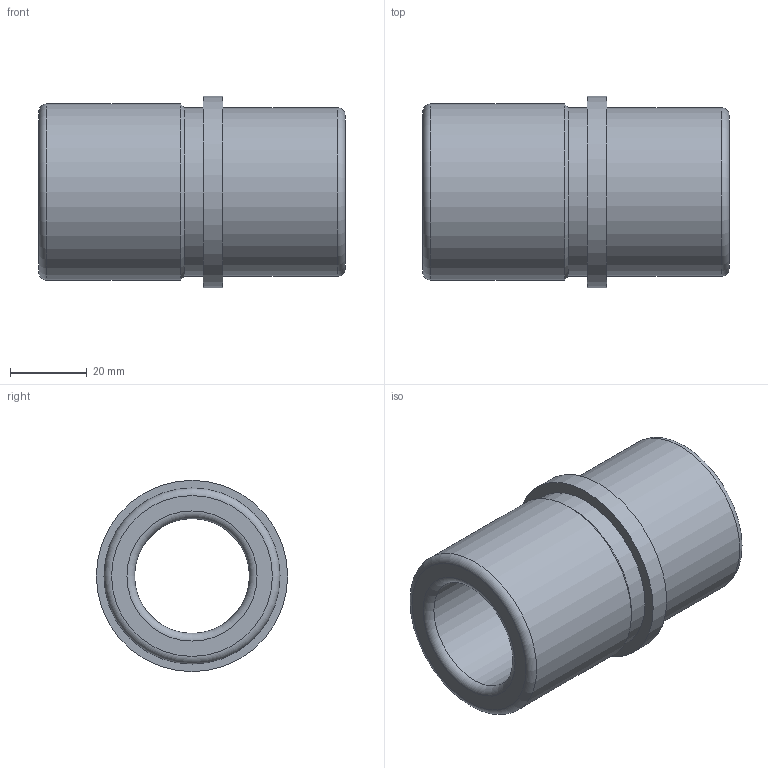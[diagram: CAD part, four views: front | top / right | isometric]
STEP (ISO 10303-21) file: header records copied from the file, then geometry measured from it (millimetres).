
FILE_DESCRIPTION( ( 'STEP AP214' ), '1' );
FILE_NAME( 'p:/temp/worker_32/temp/exporttempdir_5668_195_Y3SmP/format_0/WZ - 4053 25 x 80 - 30.stp', '2020-12-04T20:02:38', ( 'License CC BY-ND 4.0' ), ( 'CADENAS' ), ' ', 'PARTsolutions', ' ' );
FILE_SCHEMA( ( 'AUTOMOTIVE_DESIGN { 1 0 10303 214 1 1 1 1 }' ) );
Length unit declared in the file: millimetre
Products named in the file (1): _WZ - 4053 25 x 80 - 30
Bounding box: 80 x 50 x 50 mm (x, y, z)
Volume: 72205 mm3; surface area: 21236.8 mm2
Topology: 1 solids, 1 shells, 14 faces, 24 edges, 14 vertices
Faces by surface type: cylinder 5, plane 4, torus 4, cone 1
Full cylindrical faces by diameter (mm): 30 x1, 44 x2, 46 x1, 50 x1
Entity records: 416 total; most frequent: DIRECTION 58, CARTESIAN_POINT 43, AXIS2_PLACEMENT_3D 29, EDGE_LOOP 28, ORIENTED_EDGE 28, FACE_OUTER_BOUND 23, STYLED_ITEM 14, PRESENTATION_STYLE_ASSIGNMENT 14
